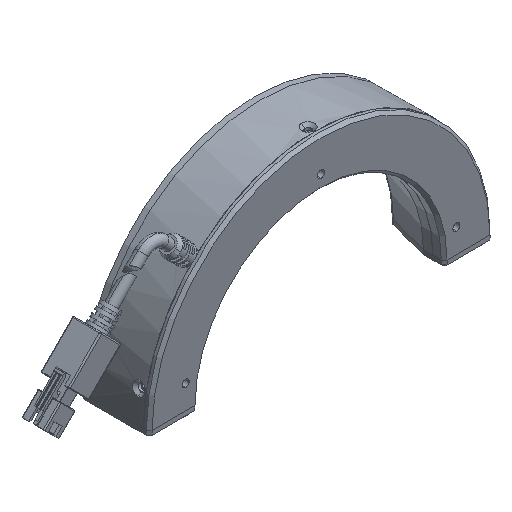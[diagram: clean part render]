
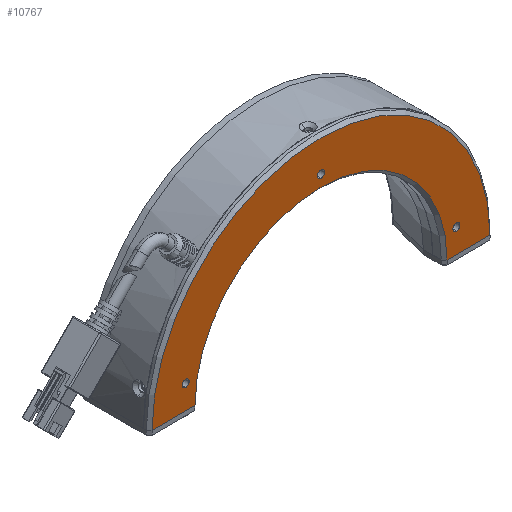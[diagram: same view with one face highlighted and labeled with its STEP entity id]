
A CAD part, isometric view. The second image highlights one B-rep face of the part: STEP entity #10767.
In plain terms, the highlighted planar face has unit normal (0, -1, 0).
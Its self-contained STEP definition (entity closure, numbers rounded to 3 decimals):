
#66 = DIRECTION ( 'NONE',  ( 0., 1., 0. ) ) ;
#291 = VERTEX_POINT ( 'NONE', #5527 ) ;
#514 = CARTESIAN_POINT ( 'NONE',  ( -47.271, 0., 9.585 ) ) ;
#691 = FACE_BOUND ( 'NONE', #722, .T. ) ;
#722 = EDGE_LOOP ( 'NONE', ( #14351, #11327 ) ) ;
#863 = AXIS2_PLACEMENT_3D ( 'NONE', #12109, #8493, #3772 ) ;
#1000 = DIRECTION ( 'NONE',  ( 0., -1., 0. ) ) ;
#1455 = DIRECTION ( 'NONE',  ( 0., -1., 0. ) ) ;
#1555 = CARTESIAN_POINT ( 'NONE',  ( -44., 0., 0. ) ) ;
#1712 = VERTEX_POINT ( 'NONE', #3957 ) ;
#1729 = CARTESIAN_POINT ( 'NONE',  ( 0., 0., 46.75 ) ) ;
#1763 = VECTOR ( 'NONE', #9057, 1000. ) ;
#2612 = EDGE_CURVE ( 'NONE', #291, #10571, #6585, .T. ) ;
#3133 = LINE ( 'NONE', #11085, #9205 ) ;
#3234 = EDGE_CURVE ( 'NONE', #3489, #8387, #11914, .T. ) ;
#3237 = CARTESIAN_POINT ( 'NONE',  ( 0., 0., 0. ) ) ;
#3291 = EDGE_CURVE ( 'NONE', #6101, #11855, #8662, .T. ) ;
#3397 = AXIS2_PLACEMENT_3D ( 'NONE', #8471, #15766, #7248 ) ;
#3472 = ORIENTED_EDGE ( 'NONE', *, *, #2612, .F. ) ;
#3489 = VERTEX_POINT ( 'NONE', #8172 ) ;
#3751 = CARTESIAN_POINT ( 'NONE',  ( 0., 0., 49.25 ) ) ;
#3772 = DIRECTION ( 'NONE',  ( 0., 0., -1. ) ) ;
#3846 = AXIS2_PLACEMENT_3D ( 'NONE', #8818, #1000, #3953 ) ;
#3919 = FACE_BOUND ( 'NONE', #8910, .T. ) ;
#3932 = EDGE_CURVE ( 'NONE', #1712, #13112, #3133, .T. ) ;
#3953 = DIRECTION ( 'NONE',  ( 0., 0., -1. ) ) ;
#3957 = CARTESIAN_POINT ( 'NONE',  ( -59., 0., 0. ) ) ;
#4026 = ORIENTED_EDGE ( 'NONE', *, *, #7234, .F. ) ;
#4417 = CIRCLE ( 'NONE', #13624, 1.25 ) ;
#4435 = AXIS2_PLACEMENT_3D ( 'NONE', #7342, #66, #8566 ) ;
#4449 = DIRECTION ( 'NONE',  ( -1., 0., 0. ) ) ;
#4477 = CIRCLE ( 'NONE', #4435, 44. ) ;
#4762 = EDGE_CURVE ( 'NONE', #5049, #10218, #5006, .T. ) ;
#4950 = EDGE_CURVE ( 'NONE', #11855, #6101, #15668, .T. ) ;
#5006 = LINE ( 'NONE', #8353, #1763 ) ;
#5049 = VERTEX_POINT ( 'NONE', #15764 ) ;
#5145 = EDGE_CURVE ( 'NONE', #8387, #3489, #4417, .T. ) ;
#5187 = DIRECTION ( 'NONE',  ( 0., 0., -1. ) ) ;
#5236 = ORIENTED_EDGE ( 'NONE', *, *, #3291, .F. ) ;
#5527 = CARTESIAN_POINT ( 'NONE',  ( -47.271, 0., 7.085 ) ) ;
#5642 = DIRECTION ( 'NONE',  ( 0., -1., 0. ) ) ;
#6101 = VERTEX_POINT ( 'NONE', #3751 ) ;
#6585 = CIRCLE ( 'NONE', #3397, 1.25 ) ;
#6975 = DIRECTION ( 'NONE',  ( 0., 1., 0. ) ) ;
#7234 = EDGE_CURVE ( 'NONE', #10571, #291, #13274, .T. ) ;
#7248 = DIRECTION ( 'NONE',  ( 0., 0., -1. ) ) ;
#7342 = CARTESIAN_POINT ( 'NONE',  ( 0., 0., 0. ) ) ;
#7526 = ORIENTED_EDGE ( 'NONE', *, *, #4950, .F. ) ;
#8025 = DIRECTION ( 'NONE',  ( 1., 0., 0. ) ) ;
#8119 = ORIENTED_EDGE ( 'NONE', *, *, #10974, .T. ) ;
#8172 = CARTESIAN_POINT ( 'NONE',  ( 47.271, 0., 7.085 ) ) ;
#8353 = CARTESIAN_POINT ( 'NONE',  ( 0., 0., 0. ) ) ;
#8387 = VERTEX_POINT ( 'NONE', #10772 ) ;
#8471 = CARTESIAN_POINT ( 'NONE',  ( -47.271, 0., 8.335 ) ) ;
#8493 = DIRECTION ( 'NONE',  ( 0., -1., 0. ) ) ;
#8566 = DIRECTION ( 'NONE',  ( -1., 0., 0. ) ) ;
#8569 = ORIENTED_EDGE ( 'NONE', *, *, #9426, .T. ) ;
#8662 = CIRCLE ( 'NONE', #863, 1.25 ) ;
#8742 = DIRECTION ( 'NONE',  ( 0., 0., -1. ) ) ;
#8818 = CARTESIAN_POINT ( 'NONE',  ( 0., 0., 48. ) ) ;
#8910 = EDGE_LOOP ( 'NONE', ( #3472, #4026 ) ) ;
#9057 = DIRECTION ( 'NONE',  ( -1., 0., 0. ) ) ;
#9110 = ORIENTED_EDGE ( 'NONE', *, *, #3932, .T. ) ;
#9205 = VECTOR ( 'NONE', #8025, 1000. ) ;
#9426 = EDGE_CURVE ( 'NONE', #5049, #1712, #11767, .T. ) ;
#9514 = AXIS2_PLACEMENT_3D ( 'NONE', #3237, #11750, #4449 ) ;
#9982 = CARTESIAN_POINT ( 'NONE',  ( 47.271, 0., 8.335 ) ) ;
#10010 = FACE_BOUND ( 'NONE', #14847, .T. ) ;
#10138 = AXIS2_PLACEMENT_3D ( 'NONE', #9982, #1455, #8742 ) ;
#10194 = EDGE_LOOP ( 'NONE', ( #13284, #8569, #9110, #8119 ) ) ;
#10218 = VERTEX_POINT ( 'NONE', #12942 ) ;
#10460 = AXIS2_PLACEMENT_3D ( 'NONE', #11830, #6975, #15489 ) ;
#10571 = VERTEX_POINT ( 'NONE', #514 ) ;
#10589 = DIRECTION ( 'NONE',  ( 0., -1., 0. ) ) ;
#10734 = CARTESIAN_POINT ( 'NONE',  ( 47.271, 0., 8.335 ) ) ;
#10767 = ADVANCED_FACE ( 'NONE', ( #3919, #10010, #691, #13238 ), #15440, .F. ) ;
#10772 = CARTESIAN_POINT ( 'NONE',  ( 47.271, 0., 9.585 ) ) ;
#10974 = EDGE_CURVE ( 'NONE', #13112, #10218, #4477, .T. ) ;
#11085 = CARTESIAN_POINT ( 'NONE',  ( 0., 0., 0. ) ) ;
#11327 = ORIENTED_EDGE ( 'NONE', *, *, #5145, .F. ) ;
#11750 = DIRECTION ( 'NONE',  ( 0., -1., 0. ) ) ;
#11767 = CIRCLE ( 'NONE', #9514, 59. ) ;
#11830 = CARTESIAN_POINT ( 'NONE',  ( 0., 0., 0. ) ) ;
#11855 = VERTEX_POINT ( 'NONE', #1729 ) ;
#11914 = CIRCLE ( 'NONE', #10138, 1.25 ) ;
#12109 = CARTESIAN_POINT ( 'NONE',  ( 0., 0., 48. ) ) ;
#12919 = CARTESIAN_POINT ( 'NONE',  ( -47.271, 0., 8.335 ) ) ;
#12942 = CARTESIAN_POINT ( 'NONE',  ( 44., 0., 0. ) ) ;
#13112 = VERTEX_POINT ( 'NONE', #1555 ) ;
#13238 = FACE_OUTER_BOUND ( 'NONE', #10194, .T. ) ;
#13274 = CIRCLE ( 'NONE', #14165, 1.25 ) ;
#13284 = ORIENTED_EDGE ( 'NONE', *, *, #4762, .F. ) ;
#13624 = AXIS2_PLACEMENT_3D ( 'NONE', #10734, #10589, #5187 ) ;
#14140 = DIRECTION ( 'NONE',  ( 0., 0., -1. ) ) ;
#14165 = AXIS2_PLACEMENT_3D ( 'NONE', #12919, #5642, #14140 ) ;
#14351 = ORIENTED_EDGE ( 'NONE', *, *, #3234, .F. ) ;
#14847 = EDGE_LOOP ( 'NONE', ( #7526, #5236 ) ) ;
#15440 = PLANE ( 'NONE',  #10460 ) ;
#15489 = DIRECTION ( 'NONE',  ( -1., 0., 0. ) ) ;
#15668 = CIRCLE ( 'NONE', #3846, 1.25 ) ;
#15764 = CARTESIAN_POINT ( 'NONE',  ( 59., 0., 0. ) ) ;
#15766 = DIRECTION ( 'NONE',  ( 0., -1., 0. ) ) ;
